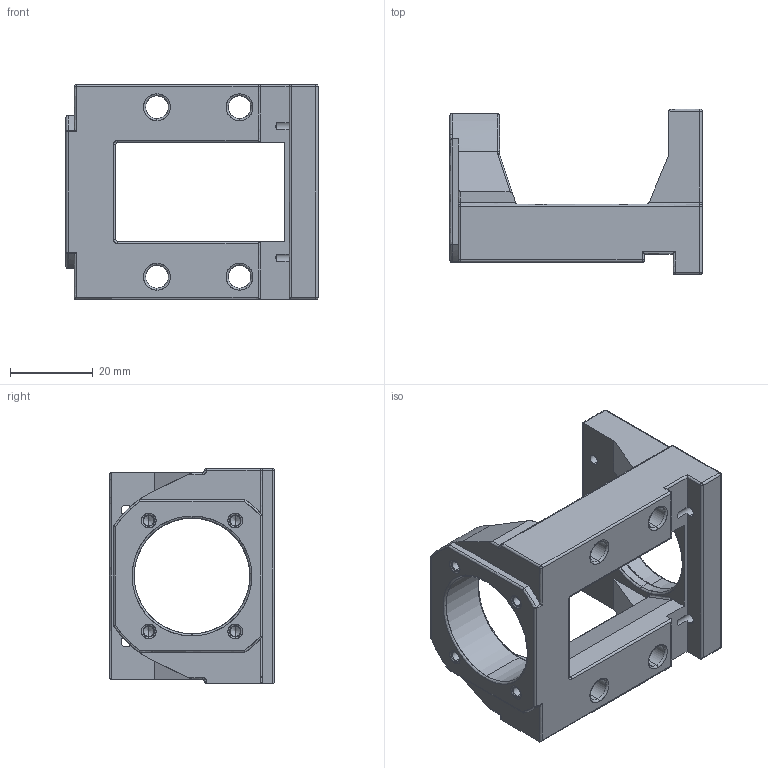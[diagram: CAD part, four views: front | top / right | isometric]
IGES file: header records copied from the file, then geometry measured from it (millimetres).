
Start section: SolidWorks IGES file using analytic representation for surfaces
Bounding box: 61 x 40 x 52 mm (x, y, z)
Surface area: 14798.5 mm2 (no closed solid volume)
Topology: 0 solids, 0 shells, 272 faces, 2844 edges, 2824 vertices
Faces by surface type: revolution 165, bspline 107
